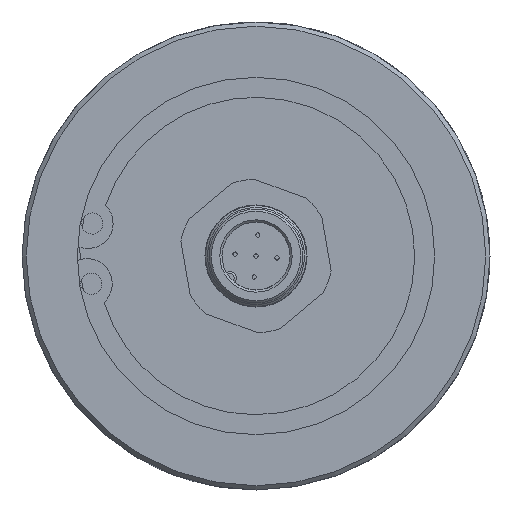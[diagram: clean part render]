
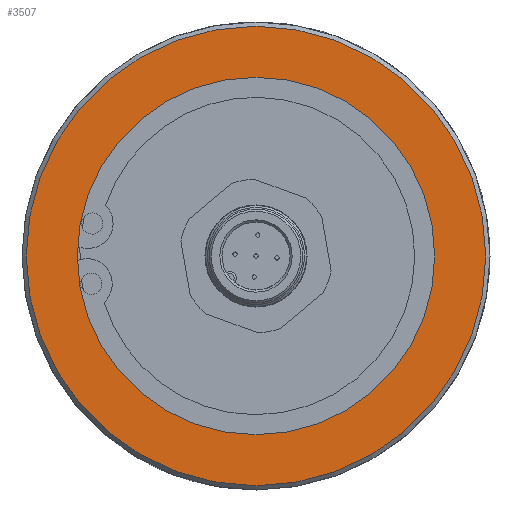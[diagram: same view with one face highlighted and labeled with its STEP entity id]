
A CAD part, left-side view. The second image highlights one B-rep face of the part: STEP entity #3507.
In plain terms, the highlighted planar face has unit normal (-1, 0, 0).
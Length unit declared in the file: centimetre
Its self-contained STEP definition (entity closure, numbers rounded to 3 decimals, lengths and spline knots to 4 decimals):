
#916=PLANE('',#3766);
#976=VERTEX_POINT('',#4951);
#992=VERTEX_POINT('',#4994);
#1282=CIRCLE('',#3750,2.1);
#1290=CIRCLE('',#3765,2.7);
#1470=EDGE_CURVE('',#976,#976,#1282,.T.);
#1489=EDGE_CURVE('',#992,#992,#1290,.T.);
#1927=ORIENTED_EDGE('',*,*,#1470,.T.);
#1928=ORIENTED_EDGE('',*,*,#1489,.F.);
#2775=EDGE_LOOP('',(#1927));
#2776=EDGE_LOOP('',(#1928));
#3145=FACE_BOUND('',#2775,.T.);
#3146=FACE_BOUND('',#2776,.T.);
#3507=ADVANCED_FACE('',(#3145,#3146),#916,.F.);
#3750=AXIS2_PLACEMENT_3D('',#4950,#4137,#4138);
#3765=AXIS2_PLACEMENT_3D('',#4993,#4171,#4172);
#3766=AXIS2_PLACEMENT_3D('',#4995,#4173,$);
#4137=DIRECTION('',(1.,0.,0.));
#4138=DIRECTION('',(0.,0.,-2.1));
#4171=DIRECTION('',(1.,0.,0.));
#4172=DIRECTION('',(0.,0.,2.7));
#4173=DIRECTION('',(1.,0.,0.));
#4950=CARTESIAN_POINT('',(-4.2,0.,0.));
#4951=CARTESIAN_POINT('',(-4.2,0.,-2.1));
#4993=CARTESIAN_POINT('',(-4.2,0.,0.));
#4994=CARTESIAN_POINT('',(-4.2,0.,-2.7));
#4995=CARTESIAN_POINT('',(-4.2,0.,0.));
